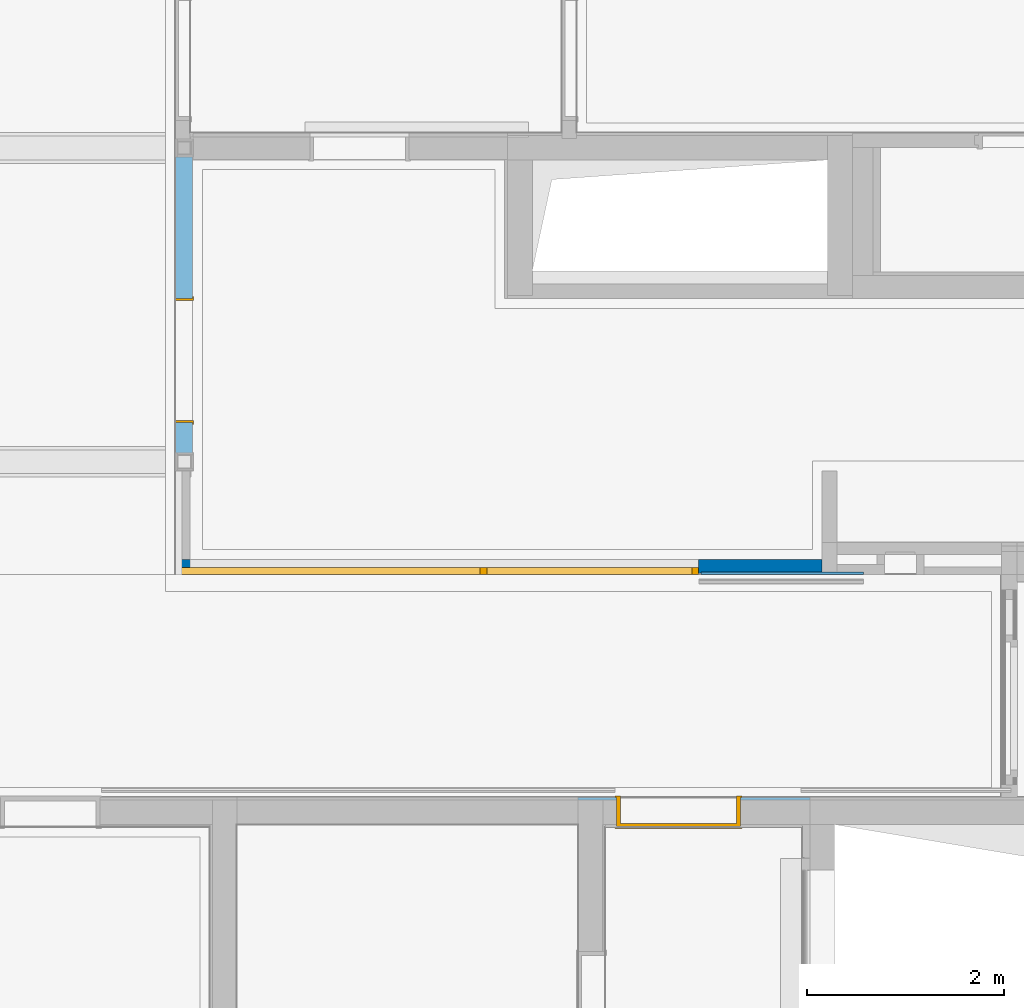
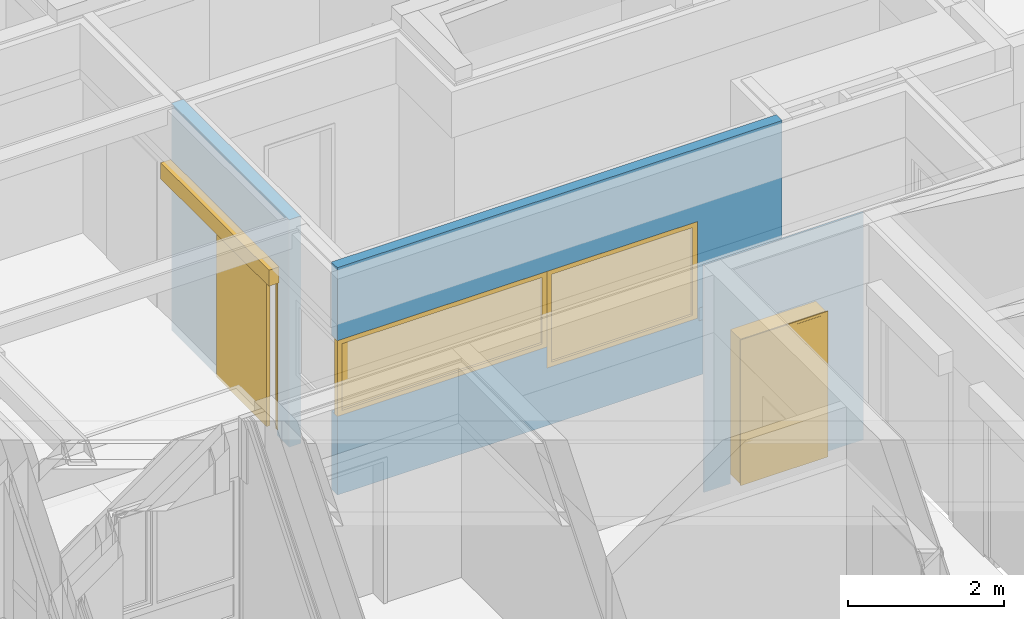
# One storey, part 82 of 222: 2 doors, 2 walls, 2 windows, 4 openings, plus 2 elements that do not belong to this part.
"""IFC4 building model written with IfcOpenShell, lengths in metres."""

import ifcopenshell
import ifcopenshell.guid

model = None  # the IFC model being written
_history = None  # IfcOwnerHistory: only IFC2X3 demands one
_inside = {}  # id of a spatial element -> (the spatial element, [elements in it])
_under = {}  # id of a project, library or spatial element -> (it, [spatial elements below it])
_declared = {}  # id of a project -> (the project, [libraries it declares])
_typed = {}  # id of a type object -> (the type object, [elements of that type])
_made_of = {}  # id of a material, layer set ... -> (it, [elements and type objects made of it])


def new_model(schema):
    """Start an empty IFC model of exactly this schema.

    Asked for "IFC4X3", IfcOpenShell would pick the latest addendum, in which some entities
    have other attributes; the version numbers below select the first issue.
    IFC2X3 requires an IfcOwnerHistory on every rooted entity: one is made here for all.
    """
    global model, _history
    if schema == "IFC4X3":
        model = ifcopenshell.file(schema_version=(4, 3, 0, 0))
    else:
        model = ifcopenshell.file(schema=schema)
    _inside.clear()
    _under.clear()
    _declared.clear()
    _typed.clear()
    _made_of.clear()
    _history = None
    if model.schema == "IFC2X3":
        org = make("IfcOrganization", Name="unknown")
        user = make(
            "IfcPersonAndOrganization",
            ThePerson=make("IfcPerson", FamilyName="unknown"),
            TheOrganization=org,
        )
        app = make(
            "IfcApplication",
            ApplicationDeveloper=org,
            Version="unknown",
            ApplicationFullName="unknown",
            ApplicationIdentifier="unknown",
        )
        _history = make(
            "IfcOwnerHistory",
            OwningUser=user,
            OwningApplication=app,
            ChangeAction="ADDED",
            CreationDate=0,
        )
    return model


def make(cls, **values):
    """One entity of the class cls with the attributes given. An attribute that is None is left unset."""
    return model.create_entity(
        cls, **{name: value for name, value in values.items() if value is not None}
    )


def entity(cls, *values):
    """Any entity or typed value of the class cls, its attributes in the order of the schema. None: left unset."""
    e = model.create_entity(cls)
    for i, value in enumerate(values):
        if value is not None:
            e[i] = value
    return e


def rooted(cls, **values):
    """An entity with a GlobalId (a new one), such as an element, a storey or a relation."""
    return make(cls, GlobalId=ifcopenshell.guid.new(), OwnerHistory=_history, **values)


def si_unit(unit_type, name, prefix=None):
    """IfcSIUnit, for example si_unit("LENGTHUNIT", "METRE", prefix="MILLI")."""
    return make("IfcSIUnit", UnitType=unit_type, Prefix=prefix, Name=name)


def converted_unit(unit_type, name, factor, base, dimensions=None, offset=None):
    """IfcConversionBasedUnit, such as the inch: factor (a typed value) times the base unit."""
    return make(
        "IfcConversionBasedUnit"
        if offset is None
        else "IfcConversionBasedUnitWithOffset",
        ConversionOffset=offset,
        Dimensions=None
        if dimensions is None
        else entity("IfcDimensionalExponents", *dimensions),
        UnitType=unit_type,
        Name=name,
        ConversionFactor=make(
            "IfcMeasureWithUnit", ValueComponent=factor, UnitComponent=base
        ),
    )


def derived_unit(unit_type, elements):
    """IfcDerivedUnit: a product of units, each with its exponent."""
    return make(
        "IfcDerivedUnit",
        Elements=[
            make("IfcDerivedUnitElement", Unit=unit, Exponent=power)
            for unit, power in elements
        ],
        UnitType=unit_type,
    )


def assignment(units):
    """IfcUnitAssignment: the units of a project."""
    return None if units is None else make("IfcUnitAssignment", Units=units)


def point(xyz):
    """IfcCartesianPoint."""
    return None if xyz is None else make("IfcCartesianPoint", Coordinates=xyz)


def direction(xyz):
    """IfcDirection."""
    return None if xyz is None else make("IfcDirection", DirectionRatios=xyz)


def frame(location, z_axis=None, x_axis=None):
    """IfcAxis2Placement3D, a coordinate frame: its origin and axes. An axis left out is left unset."""
    return make(
        "IfcAxis2Placement3D",
        Location=point(location),
        Axis=direction(z_axis),
        RefDirection=direction(x_axis),
    )


def frame_2d(location, x_axis=None):
    """IfcAxis2Placement2D, a coordinate frame in the plane: its origin and x axis."""
    return make(
        "IfcAxis2Placement2D", Location=point(location), RefDirection=direction(x_axis)
    )


def origin():
    """The frame at (0, 0, 0) with its axes left unset."""
    return frame((0.0, 0.0, 0.0))


def origin_with_axes():
    """The frame at (0, 0, 0) with the z axis (0, 0, 1) and the x axis (1, 0, 0) written out."""
    return frame((0.0, 0.0, 0.0), z_axis=(0.0, 0.0, 1.0), x_axis=(1.0, 0.0, 0.0))


def place(relative_to, where):
    """IfcLocalPlacement: puts the frame where relative to a parent placement (None: the world)."""
    return make(
        "IfcLocalPlacement", PlacementRelTo=relative_to, RelativePlacement=where
    )


def context(
    kind, dimensions, precision=None, world=None, true_north=None, identifier=None
):
    """IfcGeometricRepresentationContext, for example the 3D "Model" context."""
    return make(
        "IfcGeometricRepresentationContext",
        ContextIdentifier=identifier,
        ContextType=kind,
        CoordinateSpaceDimension=dimensions,
        Precision=precision,
        WorldCoordinateSystem=world,
        TrueNorth=true_north,
    )


def subcontext(parent, identifier, kind, view, scale=None):
    """IfcGeometricRepresentationSubContext, for example "Body" below "Model"."""
    return make(
        "IfcGeometricRepresentationSubContext",
        ContextIdentifier=identifier,
        ContextType=kind,
        ParentContext=parent,
        TargetScale=scale,
        TargetView=view,
    )


def project(units=None, contexts=None):
    """IfcProject with its units and contexts."""
    return rooted(
        "IfcProject",
        Name="project",
        RepresentationContexts=contexts,
        UnitsInContext=assignment(units),
    )


def spatial(cls, under=None, at=None, **own):
    """A site, building, storey or space (cls), placed at a placement, below another one or the project."""
    s = rooted(cls, ObjectPlacement=at, **own)
    if under is not None:
        _under.setdefault(under.id(), (under, []))[1].append(s)
    return s


def polyline(points):
    """IfcPolyline through the points."""
    return make("IfcPolyline", Points=[point(p) for p in points])


def profile(cls, at=None, kind="AREA", **sizes):
    """A parametric profile (cls). Its sizes go by their IFC names, for example OverallWidth=200.0."""
    return make(cls, ProfileType=kind, Position=at, **sizes)


def rectangle(**sizes):
    """IfcRectangleProfileDef."""
    return profile("IfcRectangleProfileDef", **sizes)


def outline(outer, holes=None, kind="AREA"):
    """IfcArbitraryClosedProfileDef: a profile drawn as a closed curve; with holes, ...WithVoids."""
    if holes is None:
        return make("IfcArbitraryClosedProfileDef", ProfileType=kind, OuterCurve=outer)
    return make(
        "IfcArbitraryProfileDefWithVoids",
        ProfileType=kind,
        OuterCurve=outer,
        InnerCurves=holes,
    )


def extrude(swept, where, along, depth):
    """IfcExtrudedAreaSolid: the profile swept, set in the frame where, extruded along a direction by depth."""
    return make(
        "IfcExtrudedAreaSolid",
        SweptArea=swept,
        Position=where,
        ExtrudedDirection=direction(along),
        Depth=depth,
    )


def faces_of(points, faces, orient=None, outer=None):
    """IfcFace entities. A face is a list of loops; a loop is a list of indices into points, from 0.

    orient and outer hold one flag for each loop. By default every Orientation is true, the
    first loop of a face is its IfcFaceOuterBound and the others are IfcFaceBound.
    """
    made = []
    for i, loops in enumerate(faces):
        bounds = []
        for j, loop in enumerate(loops):
            is_outer = j == 0 if outer is None else outer[i][j]
            bounds.append(
                make(
                    "IfcFaceOuterBound" if is_outer else "IfcFaceBound",
                    Bound=make("IfcPolyLoop", Polygon=[points[k] for k in loop]),
                    Orientation=True if orient is None else orient[i][j],
                )
            )
        made.append(make("IfcFace", Bounds=bounds))
    return made


def closed_shell(faces, orient=None, outer=None):
    """The faces of one IfcClosedShell. faceted_brep and surface_model build it on their shared points."""
    return ("IfcClosedShell", faces, orient, outer)


def open_shell(faces, orient=None, outer=None):
    """The faces of one IfcOpenShell. surface_model builds it on its shared points."""
    return ("IfcOpenShell", faces, orient, outer)


def faceted_brep(points, faces, orient=None, outer=None, voids=None):
    """IfcFacetedBrep: a solid bounded by flat faces; with voids (closed shells), ...WithVoids."""
    shared = [point(p) for p in points]
    hull = make("IfcClosedShell", CfsFaces=faces_of(shared, faces, orient, outer))
    if voids is None:
        return make("IfcFacetedBrep", Outer=hull)
    return make(
        "IfcFacetedBrepWithVoids",
        Outer=hull,
        Voids=[
            make(cls, CfsFaces=faces_of(shared, fs, o, b)) for cls, fs, o, b in voids
        ],
    )


def surface_model(cls, points, shells):
    """IfcFaceBasedSurfaceModel or IfcShellBasedSurfaceModel (cls): surfaces that need not close."""
    shared = [point(p) for p in points]
    made = [make(c, CfsFaces=faces_of(shared, fs, o, b)) for c, fs, o, b in shells]
    if cls == "IfcFaceBasedSurfaceModel":
        return make(cls, FbsmFaces=made)
    return make(cls, SbsmBoundary=made)


def shape(context_of_items, identifier, shape_type, items):
    """IfcShapeRepresentation: the items that make up one representation, for example the "Body"."""
    return make(
        "IfcShapeRepresentation",
        ContextOfItems=context_of_items,
        RepresentationIdentifier=identifier,
        RepresentationType=shape_type,
        Items=items,
    )


def source(mapping_origin, context_of_items, identifier, shape_type, items):
    """IfcRepresentationMap: a shape defined once, which mapped items show again and again."""
    return make(
        "IfcRepresentationMap",
        MappingOrigin=mapping_origin,
        MappedRepresentation=shape(context_of_items, identifier, shape_type, items),
    )


def transform(
    local_origin,
    x_axis=None,
    y_axis=None,
    z_axis=None,
    scale=None,
    scale2=None,
    scale3=None,
    uniform=True,
):
    """IfcCartesianTransformationOperator3D, or its non-uniform kind. x_axis, y_axis, z_axis: its Axis1, 2, 3."""
    if uniform:
        return make(
            "IfcCartesianTransformationOperator3D",
            Axis1=direction(x_axis),
            Axis2=direction(y_axis),
            LocalOrigin=point(local_origin),
            Scale=scale,
            Axis3=direction(z_axis),
        )
    return make(
        "IfcCartesianTransformationOperator3DnonUniform",
        Axis1=direction(x_axis),
        Axis2=direction(y_axis),
        LocalOrigin=point(local_origin),
        Scale=scale,
        Axis3=direction(z_axis),
        Scale2=scale2,
        Scale3=scale3,
    )


def mapped(mapping_source, mapping_target):
    """IfcMappedItem: shows the shape of a source again, moved by a transform."""
    return make(
        "IfcMappedItem", MappingSource=mapping_source, MappingTarget=mapping_target
    )


def material(Name=None, Category=None):
    """IfcMaterial."""
    return make("IfcMaterial", Name=Name, Category=Category)


def made_of(thing, what):
    """Note that an element or type object is made of a material, layer set ...; save() writes the relation."""
    if what is not None:
        _made_of.setdefault(what.id(), (what, []))[1].append(thing)
    return thing


def type_object(cls, material=None, **own):
    """A type object (cls), such as IfcWallType, which elements share."""
    return made_of(rooted(cls, **own), material)


def element(
    cls,
    number,
    at=None,
    inside=None,
    cuts=None,
    type_object=None,
    material=None,
    context=None,
    identifier="Body",
    shape_type=None,
    held_by="IfcProductDefinitionShape",
    body=None,
    shapes=None,
    **own,
):
    """One element of the class cls, such as IfcWall. Its Tag is "e" and its number.

    at: its placement. inside: the storey or other place that contains it. cuts: it is an
    opening in that element (IfcRelVoidsElement). A single representation is given by context,
    identifier, shape_type and body (its items); several are given by shapes. held_by: the class
    of the entity that holds the representations. save() writes the other relations.
    """
    e = rooted(cls, Tag="e%d" % number, ObjectPlacement=at, **own)
    if body is not None:
        shapes = [shape(context, identifier, shape_type, body)]
    if shapes is not None:
        e.Representation = make(held_by, Representations=shapes)
    if inside is not None:
        _inside.setdefault(inside.id(), (inside, []))[1].append(e)
    if cuts is not None:
        rooted(
            "IfcRelVoidsElement", RelatingBuildingElement=cuts, RelatedOpeningElement=e
        )
    if type_object is not None:
        _typed.setdefault(type_object.id(), (type_object, []))[1].append(e)
    return made_of(e, material)


def fill(opening, filler):
    """IfcRelFillsElement: the door or window that sits in an opening."""
    return rooted(
        "IfcRelFillsElement",
        RelatingOpeningElement=opening,
        RelatedBuildingElement=filler,
    )


def aggregate(whole, parts):
    """IfcRelAggregates: a whole, such as a stair, and the parts it consists of."""
    return rooted("IfcRelAggregates", RelatingObject=whole, RelatedObjects=parts)


def save(model, path):
    """Write the relations noted so far, then the file.

    IfcRelAggregates (storeys below a building ...), IfcRelContainedInSpatialStructure (elements
    in a storey), IfcRelDefinesByType, IfcRelAssociatesMaterial and IfcRelDeclares: one each for
    every whole, place, type object, material and project.
    """
    for whole, parts in _under.values():
        aggregate(whole, parts)
    for where, things in _inside.values():
        rooted(
            "IfcRelContainedInSpatialStructure",
            RelatedElements=things,
            RelatingStructure=where,
        )
    for kind, things in _typed.values():
        rooted("IfcRelDefinesByType", RelatedObjects=things, RelatingType=kind)
    for what, things in _made_of.values():
        rooted("IfcRelAssociatesMaterial", RelatedObjects=things, RelatingMaterial=what)
    for by, libraries in _declared.values():
        rooted("IfcRelDeclares", RelatingContext=by, RelatedDefinitions=libraries)
    model.write(path)


model = new_model("IFC4")

# Units and contexts
model_context = context("Model", 3, precision=1e-05, world=origin())
body_context = subcontext(model_context, "Body", "Model", "MODEL_VIEW")
ifc_project = project(units=[si_unit("LENGTHUNIT", "METRE"), si_unit("AREAUNIT", "SQUARE_METRE"), si_unit("VOLUMEUNIT", "CUBIC_METRE"), si_unit("MASSUNIT", "GRAM", prefix="KILO"), converted_unit("PLANEANGLEUNIT", "DEGREE", entity("IfcPlaneAngleMeasure", 0.0174532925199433), si_unit("PLANEANGLEUNIT", "RADIAN"), dimensions=[0, 0, 0, 0, 0, 0, 0]), derived_unit("THERMALTRANSMITTANCEUNIT", [(si_unit("POWERUNIT", "WATT"), 1), (si_unit("THERMODYNAMICTEMPERATUREUNIT", "KELVIN"), -1), (si_unit("LENGTHUNIT", "METRE"), -2)]), derived_unit("VOLUMETRICFLOWRATEUNIT", [(si_unit("LENGTHUNIT", "METRE"), 3), (converted_unit("TIMEUNIT", "hour", entity("IfcTimeMeasure", 3600.0), si_unit("TIMEUNIT", "SECOND"), dimensions=[0, 0, 1, 0, 0, 0, 0]), -1), (si_unit("LENGTHUNIT", "METRE"), -1)])], contexts=[model_context])

# Site, building, storey
site_placement = place(None, origin())
site = spatial("IfcSite", under=ifc_project, at=site_placement, Name="Psychiatrie Neubau Wunstorf", CompositionType="ELEMENT")
building_placement = place(site_placement, origin())
building = spatial("IfcBuilding", under=site, at=building_placement, Name="Neubau H2 Stationsgebäude", CompositionType="ELEMENT")
storey_placement = place(building_placement, frame((0.0, 0.0, 3.6)))
storey = spatial("IfcBuildingStorey", under=building, at=storey_placement, Name="H2 Ebene +1", CompositionType="ELEMENT", Elevation=3.6)

# Wall
wall_1_placement = place(storey_placement, frame((45.9126370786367, 2.81749969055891, 0.85)))
element("IfcWall", 1, at=wall_1_placement, inside=storey, Name="WV 1.1", context=body_context, shape_type="Brep", body=[
    faceted_brep([(0.0, 0.025, 0.0), (0.0, 0.0, 0.0), (1.65, 0.0, 0.0), (1.65, 0.025, 0.0), (0.0, 0.0, 0.2), (0.0, 0.025, 0.2), (1.65, 0.025, 0.2), (1.65, 0.0, 0.2)], [[[0, 1, 2, 3]], [[4, 5, 6, 7]], [[1, 0, 5, 4]], [[2, 1, 4, 7]], [[3, 2, 7, 6]], [[0, 3, 6, 5]]], orient=[[False], [False], [False], [False], [False], [False]]),
])

# Wall, opening, door
ifc_material_1 = material(Name="WI-LB")
wall_2_placement = place(storey_placement, frame((40.5749975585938, 7.05649969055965, 0.0), z_axis=(0.0, 0.0, 1.0), x_axis=(0.0, -1.0, 0.0)))
wall_2 = element("IfcWall", 2, at=wall_2_placement, inside=storey, material=ifc_material_1, context=body_context, shape_type="SweptSolid", body=[
    extrude(outline(polyline([(-3.00651163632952, 0.0), (-8.88637829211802e-06, 0.0), (0.0, 0.175), (-3.00651163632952, 0.175), (-3.00651163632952, 0.0)])), frame((3.00651163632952, 0.0, 0.0), z_axis=(0.0, 0.0, 1.0), x_axis=(1.0, 0.0, 0.0)), (0.0, 0.0, 1.0), 3.55),
])
opening_1_placement = place(wall_2_placement, frame((1.43899947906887, 0.0, 0.0), z_axis=(0.0, 1.0, 0.0), x_axis=(0.0, 0.0, 1.0)))
opening_1 = element("IfcOpeningElement", 3, at=opening_1_placement, cuts=wall_2, Name="Türöffnung", ObjectType="Opening", context=body_context, shape_type="SweptSolid", body=[
    extrude(outline(polyline([(2.41, 1.26), (2.41, 0.0), (0.0, 0.0), (0.0, 1.26), (2.41, 1.26)])), origin_with_axes(), (0.0, 0.0, 1.0), 0.175),
])
ifc_material_2 = material(Name="TI-1F-UZ-ZK")
door_type_1 = type_object("IfcDoorType", Name="SMT", OperationType="SLIDING_TO_RIGHT", ParameterTakesPrecedence=False, PredefinedType="DOOR")
shared_shape_1 = source(origin_with_axes(), body_context, "Body", "Brep", [
    faceted_brep([(-0.0774999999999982, 0.0574999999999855, 0.0), (-0.0274999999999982, 0.0574999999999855, 0.0), (-0.0274999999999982, 0.157499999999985, 0.0), (-0.0774999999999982, 0.157499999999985, 0.0), (-0.0774999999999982, 0.157499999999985, 3.55), (-0.0274999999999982, 0.157499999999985, 3.55), (-0.0274999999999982, 0.0574999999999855, 3.55), (-0.0774999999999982, 0.0574999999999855, 3.55)], [[[0, 1, 2, 3]], [[4, 5, 6, 7]], [[3, 4, 7, 0]], [[2, 5, 4, 3]], [[1, 6, 5, 2]], [[0, 7, 6, 1]]], orient=[[False], [False], [False], [False], [False], [False]]),
    faceted_brep([(-1.4075, 0.0574999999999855, 0.0), (-1.3575, 0.0574999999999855, 0.0), (-1.3575, 0.157499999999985, 0.0), (-1.4075, 0.157499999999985, 0.0), (-1.4075, 0.157499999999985, 3.55), (-1.3575, 0.157499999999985, 3.55), (-1.3575, 0.0574999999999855, 3.55), (-1.4075, 0.0574999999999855, 3.55)], [[[0, 1, 2, 3]], [[4, 5, 6, 7]], [[3, 4, 7, 0]], [[2, 5, 4, 3]], [[1, 6, 5, 2]], [[0, 7, 6, 1]]], orient=[[False], [False], [False], [False], [False], [False]]),
    faceted_brep([(1.2875, 0.0574999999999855, 0.0), (1.3375, 0.0574999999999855, 0.0), (1.3375, 0.157499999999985, 0.0), (1.2875, 0.157499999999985, 0.0), (1.2875, 0.157499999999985, 3.55), (1.3375, 0.157499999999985, 3.55), (1.3375, 0.0574999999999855, 3.55), (1.2875, 0.0574999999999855, 3.55)], [[[0, 1, 2, 3]], [[4, 5, 6, 7]], [[3, 4, 7, 0]], [[2, 5, 4, 3]], [[1, 6, 5, 2]], [[0, 7, 6, 1]]], orient=[[False], [False], [False], [False], [False], [False]]),
    faceted_brep([(-1.3575, 0.0574999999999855, 2.4375), (1.2875, 0.0574999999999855, 2.4375), (1.2875, 0.157499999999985, 2.4375), (-1.3575, 0.157499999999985, 2.4375), (-1.3575, 0.157499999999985, 2.4875), (1.2875, 0.157499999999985, 2.4875), (1.2875, 0.0574999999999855, 2.4875), (-1.3575, 0.0574999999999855, 2.4875)], [[[0, 1, 2, 3]], [[4, 5, 6, 7]], [[3, 4, 7, 0]], [[2, 5, 4, 3]], [[1, 6, 5, 2]], [[0, 7, 6, 1]]], orient=[[False], [False], [False], [False], [False], [False]]),
])
shared_shape_2 = source(origin_with_axes(), body_context, "Body", "Brep", [
    faceted_brep([(1.31, -0.130000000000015, 2.41), (1.31, 0.0199999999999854, 2.41), (-1.46, 0.0199999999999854, 2.41), (-1.46, -0.130000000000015, 2.41), (1.31, 0.0199999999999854, 2.66), (1.31, -0.130000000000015, 2.66), (-1.46, -0.130000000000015, 2.66), (-1.46, 0.0199999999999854, 2.66)], [[[0, 1, 2, 3]], [[4, 5, 6, 7]], [[1, 0, 5, 4]], [[2, 1, 4, 7]], [[3, 2, 7, 6]], [[0, 3, 6, 5]]], orient=[[False], [False], [False], [False], [False], [False]]),
])
shared_shape_3 = source(origin_with_axes(), body_context, "Body", "Brep", [
    faceted_brep([(1.26, 0.204999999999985, 2.41), (1.24, 0.204999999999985, 2.41), (1.24, 0.204999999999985, 0.1), (1.26, 0.204999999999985, 0.1), (1.26, 0.00999999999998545, 0.1), (1.24, 0.00999999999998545, 0.1), (1.24, 0.00999999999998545, 2.41), (1.26, 0.00999999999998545, 2.41)], [[[0, 1, 2, 3]], [[4, 5, 6, 7]], [[3, 4, 7, 0]], [[2, 5, 4, 3]], [[1, 6, 5, 2]], [[0, 7, 6, 1]]], orient=[[False], [False], [False], [False], [False], [False]]),
    faceted_brep([(1.26, 0.204999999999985, 2.43), (1.26, 0.204999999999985, 0.1), (1.28, 0.204999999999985, 0.1), (1.28, 0.204999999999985, 2.43), (1.26, 0.194999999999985, 0.1), (1.26, 0.194999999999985, 2.43), (1.28, 0.194999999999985, 2.43), (1.28, 0.194999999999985, 0.1)], [[[0, 1, 2, 3]], [[4, 5, 6, 7]], [[1, 0, 5, 4]], [[2, 1, 4, 7]], [[3, 2, 7, 6]], [[0, 3, 6, 5]]], orient=[[False], [False], [False], [False], [False], [False]]),
    faceted_brep([(1.26, 0.0199999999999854, 2.43), (1.26, 0.0199999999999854, 0.1), (1.28, 0.0199999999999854, 0.1), (1.28, 0.0199999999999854, 2.43), (1.26, 0.00999999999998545, 0.1), (1.26, 0.00999999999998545, 2.43), (1.28, 0.00999999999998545, 2.43), (1.28, 0.00999999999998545, 0.1)], [[[0, 1, 2, 3]], [[4, 5, 6, 7]], [[1, 0, 5, 4]], [[2, 1, 4, 7]], [[3, 2, 7, 6]], [[0, 3, 6, 5]]], orient=[[False], [False], [False], [False], [False], [False]]),
    faceted_brep([(0.0200000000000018, 0.204999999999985, 2.41), (0.0, 0.204999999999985, 2.41), (0.0, 0.204999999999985, 0.1), (0.0200000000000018, 0.204999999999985, 0.1), (0.0200000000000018, 0.00999999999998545, 0.1), (0.0, 0.00999999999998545, 0.1), (0.0, 0.00999999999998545, 2.41), (0.0200000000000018, 0.00999999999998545, 2.41)], [[[0, 1, 2, 3]], [[4, 5, 6, 7]], [[3, 4, 7, 0]], [[2, 5, 4, 3]], [[1, 6, 5, 2]], [[0, 7, 6, 1]]], orient=[[False], [False], [False], [False], [False], [False]]),
    faceted_brep([(0.0, 0.204999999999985, 2.43), (-0.0199999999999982, 0.204999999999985, 2.43), (-0.0199999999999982, 0.204999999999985, 0.1), (0.0, 0.204999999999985, 0.1), (0.0, 0.194999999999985, 0.1), (-0.0199999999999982, 0.194999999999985, 0.1), (-0.0199999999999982, 0.194999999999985, 2.43), (0.0, 0.194999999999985, 2.43)], [[[0, 1, 2, 3]], [[4, 5, 6, 7]], [[3, 4, 7, 0]], [[2, 5, 4, 3]], [[1, 6, 5, 2]], [[0, 7, 6, 1]]], orient=[[False], [False], [False], [False], [False], [False]]),
    faceted_brep([(0.0, 0.0199999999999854, 2.43), (-0.0199999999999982, 0.0199999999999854, 2.43), (-0.0199999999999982, 0.0199999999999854, 0.1), (0.0, 0.0199999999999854, 0.1), (0.0, 0.00999999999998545, 0.1), (-0.0199999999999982, 0.00999999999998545, 0.1), (-0.0199999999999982, 0.00999999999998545, 2.43), (0.0, 0.00999999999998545, 2.43)], [[[0, 1, 2, 3]], [[4, 5, 6, 7]], [[3, 4, 7, 0]], [[2, 5, 4, 3]], [[1, 6, 5, 2]], [[0, 7, 6, 1]]], orient=[[False], [False], [False], [False], [False], [False]]),
    faceted_brep([(1.24, 0.204999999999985, 2.41), (0.0200000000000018, 0.204999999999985, 2.41), (0.0200000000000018, 0.204999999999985, 2.385), (1.24, 0.204999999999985, 2.385), (1.24, 0.00999999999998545, 2.385), (0.0200000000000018, 0.00999999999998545, 2.385), (0.0200000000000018, 0.00999999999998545, 2.41), (1.24, 0.00999999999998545, 2.41)], [[[0, 1, 2, 3]], [[4, 5, 6, 7]], [[3, 4, 7, 0]], [[2, 5, 4, 3]], [[1, 6, 5, 2]], [[0, 7, 6, 1]]], orient=[[False], [False], [False], [False], [False], [False]]),
    faceted_brep([(1.26, 0.204999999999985, 2.43), (0.0, 0.204999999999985, 2.43), (0.0, 0.204999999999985, 2.41), (1.26, 0.204999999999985, 2.41), (1.26, 0.194999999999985, 2.41), (0.0, 0.194999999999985, 2.41), (0.0, 0.194999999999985, 2.43), (1.26, 0.194999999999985, 2.43)], [[[0, 1, 2, 3]], [[4, 5, 6, 7]], [[3, 4, 7, 0]], [[2, 5, 4, 3]], [[1, 6, 5, 2]], [[0, 7, 6, 1]]], orient=[[False], [False], [False], [False], [False], [False]]),
    faceted_brep([(1.26, 0.0199999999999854, 2.43), (0.0, 0.0199999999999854, 2.43), (0.0, 0.0199999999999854, 2.41), (1.26, 0.0199999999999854, 2.41), (1.26, 0.00999999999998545, 2.41), (0.0, 0.00999999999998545, 2.41), (0.0, 0.00999999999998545, 2.43), (1.26, 0.00999999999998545, 2.43)], [[[0, 1, 2, 3]], [[4, 5, 6, 7]], [[3, 4, 7, 0]], [[2, 5, 4, 3]], [[1, 6, 5, 2]], [[0, 7, 6, 1]]], orient=[[False], [False], [False], [False], [False], [False]]),
    faceted_brep([(1.148, -0.0200000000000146, 2.465), (-0.131999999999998, -0.0200000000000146, 2.465), (-0.131999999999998, -0.0200000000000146, 0.1), (1.148, -0.0200000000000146, 0.1), (1.148, -0.0700000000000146, 0.1), (-0.131999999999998, -0.0700000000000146, 0.1), (-0.131999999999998, -0.0700000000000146, 2.465), (1.148, -0.0700000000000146, 2.465)], [[[0, 1, 2, 3]], [[4, 5, 6, 7]], [[3, 4, 7, 0]], [[2, 5, 4, 3]], [[1, 6, 5, 2]], [[0, 7, 6, 1]]], orient=[[False], [False], [False], [False], [False], [False]]),
])
door_1_placement = place(opening_1_placement, frame((0.0, 0.0, -0.02), z_axis=(1.0, 0.0, 0.0), x_axis=(0.0, 1.0, 0.0)))
door_1 = element("IfcDoor", 4, at=door_1_placement, inside=storey, type_object=door_type_1, material=ifc_material_2, Name="SMT", OverallHeight=2.41, OverallWidth=1.26, context=body_context, shape_type="MappedRepresentation", body=[
    mapped(shared_shape_1, transform((0.0, 0.0, 0.0), x_axis=(1.0, 0.0, 0.0), y_axis=(0.0, 1.0, 0.0), z_axis=(0.0, 0.0, 1.0), scale=1.0)),
    mapped(shared_shape_2, transform((0.0, 0.0, 0.0), x_axis=(1.0, 0.0, 0.0), y_axis=(0.0, 1.0, 0.0), z_axis=(0.0, 0.0, 1.0), scale=1.0)),
    mapped(shared_shape_3, transform((0.0, 0.0, 0.0), x_axis=(1.0, 0.0, 0.0), y_axis=(0.0, 1.0, 0.0), z_axis=(0.0, 0.0, 1.0), scale=1.0)),
])
fill(opening_1, door_1)

# Wall, openings, windows
ifc_material_3 = material(Name="WI-LB")
wall_3_placement = place(storey_placement, frame((40.5749975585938, 2.81734917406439, 0.0)))
wall_3 = element("IfcWall", 5, at=wall_3_placement, inside=storey, material=ifc_material_3, context=body_context, shape_type="Brep", body=[
    faceted_brep([(0.0, 0.000150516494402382, 2.41), (0.0, 0.000150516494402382, 1.23), (0.15, 0.000150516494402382, 1.23), (0.15, 0.000150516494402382, 2.41), (0.15, 0.150000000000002, 2.41), (0.0, 0.150000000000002, 2.41), (0.0, 0.150000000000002, 1.23), (0.15, 0.150000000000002, 1.23), (0.0, 0.150000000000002, 0.0), (6.56791439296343, 0.15, 0.0), (6.56791439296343, 0.15, 3.55), (0.0, 0.150000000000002, 3.55), (6.56791439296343, 0.0, 0.0), (6.56791439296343, 0.0, 3.55), (0.0, 0.0, 0.0), (0.0, 0.0, 3.55)], [[[0, 1, 2, 3]], [[3, 4, 5, 0]], [[1, 6, 7, 2]], [[3, 2, 7, 4]], [[4, 7, 6, 8, 9, 10, 11, 5]], [[9, 12, 13, 10]], [[12, 14, 15, 13]], [[5, 11, 15, 14, 8, 6, 1, 0]], [[15, 11, 10, 13]], [[8, 14, 12, 9]]], orient=[[False], [False], [False], [False], [False], [False], [False], [False], [False], [False]]),
])
opening_2_placement = place(wall_3_placement, frame((3.09500307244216, 0.150000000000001, 1.23), z_axis=(0.0, -1.0, 0.0), x_axis=(0.0, 0.0, 1.0)))
opening_2 = element("IfcOpeningElement", 6, at=opening_2_placement, cuts=wall_3, Name="Fensteröffnung", ObjectType="Opening", context=body_context, shape_type="SweptSolid", body=[
    extrude(outline(polyline([(1.18, 3.09500307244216), (1.18, 0.0), (0.0, 0.0), (0.0, 3.09500307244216), (1.18, 3.09500307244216)])), origin_with_axes(), (0.0, 0.0, 1.0), 0.15),
])
opening_3_placement = place(wall_3_placement, frame((5.31500307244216, 0.15, 0.9), z_axis=(0.0, -1.0, 0.0), x_axis=(0.0, 0.0, 1.0)))
opening_3 = element("IfcOpeningElement", 7, at=opening_3_placement, cuts=wall_3, Name="Fensteröffnung", ObjectType="Opening", context=body_context, shape_type="SweptSolid", body=[
    extrude(outline(polyline([(1.51, 2.22), (1.51, 0.0), (0.0, 0.0), (0.0, 2.22), (1.51, 2.22)])), origin_with_axes(), (0.0, 0.0, 1.0), 0.15),
])
shared_shape_4 = source(origin_with_axes(), body_context, "Body", "SurfaceModel", [
    surface_model("IfcShellBasedSurfaceModel", [(0.0, 0.0, 1.18), (0.07, 0.0, 1.18), (0.07, 0.0, 0.0), (0.0, 0.0, 0.0), (0.0, 0.0700000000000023, 0.0), (0.07, 0.0700000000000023, 0.0), (0.07, 0.0700000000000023, 1.18), (0.0, 0.0700000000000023, 1.18)], [closed_shell([[[0, 1, 2, 3]], [[4, 5, 6, 7]], [[3, 4, 7, 0]], [[2, 5, 4, 3]], [[1, 6, 5, 2]], [[0, 7, 6, 1]]], orient=[[False], [False], [False], [False], [False], [False]])]),
    surface_model("IfcShellBasedSurfaceModel", [(3.02500307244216, 0.0, 1.18), (3.09500307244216, 0.0, 1.18), (3.09500307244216, 0.0, 0.0), (3.02500307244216, 0.0, 0.0), (3.02500307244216, 0.0700000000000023, 0.0), (3.09500307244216, 0.0700000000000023, 0.0), (3.09500307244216, 0.0700000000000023, 1.18), (3.02500307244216, 0.0700000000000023, 1.18)], [closed_shell([[[0, 1, 2, 3]], [[4, 5, 6, 7]], [[3, 4, 7, 0]], [[2, 5, 4, 3]], [[1, 6, 5, 2]], [[0, 7, 6, 1]]], orient=[[False], [False], [False], [False], [False], [False]])]),
    surface_model("IfcShellBasedSurfaceModel", [(0.07, 0.0, 0.07), (3.02500307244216, 0.0, 0.07), (3.02500307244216, 0.0, 0.0), (0.07, 0.0, 0.0), (0.07, 0.0700000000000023, 0.0), (3.02500307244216, 0.0700000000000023, 0.0), (3.02500307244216, 0.0700000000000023, 0.07), (0.07, 0.0700000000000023, 0.07)], [closed_shell([[[0, 1, 2, 3]], [[4, 5, 6, 7]], [[3, 4, 7, 0]], [[2, 5, 4, 3]], [[1, 6, 5, 2]], [[0, 7, 6, 1]]], orient=[[False], [False], [False], [False], [False], [False]])]),
    surface_model("IfcShellBasedSurfaceModel", [(0.07, 0.0, 1.18), (3.02500307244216, 0.0, 1.18), (3.02500307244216, 0.0, 1.11), (0.07, 0.0, 1.11), (0.07, 0.0700000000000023, 1.11), (3.02500307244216, 0.0700000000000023, 1.11), (3.02500307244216, 0.0700000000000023, 1.18), (0.07, 0.0700000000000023, 1.18)], [closed_shell([[[0, 1, 2, 3]], [[4, 5, 6, 7]], [[3, 4, 7, 0]], [[2, 5, 4, 3]], [[1, 6, 5, 2]], [[0, 7, 6, 1]]], orient=[[False], [False], [False], [False], [False], [False]])]),
    surface_model("IfcShellBasedSurfaceModel", [(0.07, 0.0350000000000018, 0.07), (0.07, 0.0350000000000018, 1.11), (3.02500307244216, 0.0350000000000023, 1.11), (3.02500307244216, 0.0350000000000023, 0.07)], [open_shell([[[0, 1, 2, 3]]], orient=[[False]])]),
])
window_1_placement = place(opening_2_placement, frame((0.0, 0.0, 0.08), z_axis=(1.0, 0.0, 0.0), x_axis=(0.0, 1.0, -2.93859062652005e-16)))
window_1 = element("IfcWindow", 8, at=window_1_placement, inside=storey, Name="Fenster", OverallHeight=1.18, OverallWidth=3.095, PartitioningType="USERDEFINED", PredefinedType="WINDOW", context=body_context, shape_type="MappedRepresentation", body=[
    mapped(shared_shape_4, transform((0.0, 0.0, 0.0), x_axis=(1.0, 0.0, 0.0), y_axis=(0.0, 1.0, 0.0), z_axis=(0.0, 0.0, 1.0), scale=1.0)),
])
fill(opening_2, window_1)
shared_shape_5 = source(origin_with_axes(), body_context, "Body", "SurfaceModel", [
    surface_model("IfcShellBasedSurfaceModel", [(0.0, 0.0, 1.51), (0.07, 0.0, 1.51), (0.07, 0.0, 0.0), (0.0, 0.0, 0.0), (0.0, 0.0700000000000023, 0.0), (0.07, 0.0700000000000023, 0.0), (0.07, 0.0700000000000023, 1.51), (0.0, 0.0700000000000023, 1.51)], [closed_shell([[[0, 1, 2, 3]], [[4, 5, 6, 7]], [[3, 4, 7, 0]], [[2, 5, 4, 3]], [[1, 6, 5, 2]], [[0, 7, 6, 1]]], orient=[[False], [False], [False], [False], [False], [False]])]),
    surface_model("IfcShellBasedSurfaceModel", [(2.15, 0.0, 1.51), (2.22, 0.0, 1.51), (2.22, 0.0, 0.0), (2.15, 0.0, 0.0), (2.15, 0.0700000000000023, 0.0), (2.22, 0.0700000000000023, 0.0), (2.22, 0.0700000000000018, 1.51), (2.15, 0.0700000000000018, 1.51)], [closed_shell([[[0, 1, 2, 3]], [[4, 5, 6, 7]], [[3, 4, 7, 0]], [[2, 5, 4, 3]], [[1, 6, 5, 2]], [[0, 7, 6, 1]]], orient=[[False], [False], [False], [False], [False], [False]])]),
    surface_model("IfcShellBasedSurfaceModel", [(0.07, 0.0, 0.07), (2.15, 0.0, 0.07), (2.15, 0.0, 0.0), (0.07, 0.0, 0.0), (0.07, 0.0700000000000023, 0.0), (2.15, 0.0700000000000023, 0.0), (2.15, 0.0700000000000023, 0.07), (0.07, 0.0700000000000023, 0.07)], [closed_shell([[[0, 1, 2, 3]], [[4, 5, 6, 7]], [[3, 4, 7, 0]], [[2, 5, 4, 3]], [[1, 6, 5, 2]], [[0, 7, 6, 1]]], orient=[[False], [False], [False], [False], [False], [False]])]),
    surface_model("IfcShellBasedSurfaceModel", [(0.07, 0.0, 1.51), (2.15, 0.0, 1.51), (2.15, 0.0, 1.44), (0.07, 0.0, 1.44), (0.07, 0.0700000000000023, 1.44), (2.15, 0.0700000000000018, 1.44), (2.15, 0.0700000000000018, 1.51), (0.07, 0.0700000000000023, 1.51)], [closed_shell([[[0, 1, 2, 3]], [[4, 5, 6, 7]], [[3, 4, 7, 0]], [[2, 5, 4, 3]], [[1, 6, 5, 2]], [[0, 7, 6, 1]]], orient=[[False], [False], [False], [False], [False], [False]])]),
    surface_model("IfcShellBasedSurfaceModel", [(0.07, 0.0350000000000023, 0.07), (0.07, 0.0350000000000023, 1.44), (2.15, 0.0350000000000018, 1.44), (2.15, 0.0350000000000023, 0.07)], [open_shell([[[0, 1, 2, 3]]], orient=[[False]])]),
])
window_2_placement = place(opening_3_placement, frame((0.0, 0.0, 0.08), z_axis=(1.0, 0.0, 0.0), x_axis=(0.0, 1.0, -2.04841149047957e-16)))
window_2 = element("IfcWindow", 9, at=window_2_placement, inside=storey, Name="Fenster", OverallHeight=1.51, OverallWidth=2.22, PartitioningType="USERDEFINED", PredefinedType="WINDOW", context=body_context, shape_type="MappedRepresentation", body=[
    mapped(shared_shape_5, transform((0.0, 0.0, 0.0), x_axis=(1.0, 0.0, 0.0), y_axis=(0.0, 1.0, 0.0), z_axis=(0.0, 0.0, 1.0), scale=1.0)),
])
fill(opening_3, window_2)

# Wall, opening, door
ifc_material_4 = material(Name="WI-LB")
wall_4_placement = place(storey_placement, frame((47.0200048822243, 0.549, 0.0), z_axis=(0.0, 0.0, 1.0), x_axis=(-1.0, 9.65903464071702e-17, 0.0)))
wall_4 = element("IfcWall", 10, at=wall_4_placement, inside=storey, material=ifc_material_4, context=body_context, shape_type="SweptSolid", body=[
    extrude(rectangle(XDim=2.3540000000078, YDim=0.024, at=frame_2d((1.1770000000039, 0.012), x_axis=(1.0, 0.0))), origin_with_axes(), (0.0, 0.0, 1.0), 3.55),
])
opening_4_placement = place(wall_4_placement, frame((1.96500000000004, 0.024, 0.0), z_axis=(0.0, -1.0, 0.0), x_axis=(0.0, 0.0, 1.0)))
opening_4 = element("IfcOpeningElement", 11, at=opening_4_placement, cuts=wall_4, Name="Türöffnung", ObjectType="Opening", context=body_context, shape_type="SweptSolid", body=[
    extrude(outline(polyline([(2.41, 1.26), (2.41, 0.0), (0.0, 0.0), (0.0, 1.26), (2.41, 1.26)])), origin_with_axes(), (0.0, 0.0, 1.0), 0.024),
])
ifc_material_5 = material(Name="TI-1F-UZ-M-ZK")
door_type_2 = type_object("IfcDoorType", Name="SMT", OperationType="SINGLE_SWING_RIGHT", ParameterTakesPrecedence=False, PredefinedType="DOOR")
shared_shape_6 = source(origin_with_axes(), body_context, "Body", "Brep", [
    faceted_brep([(1.26, -0.0150000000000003, 2.41), (1.26, -0.015, 0.15), (1.22, -0.015, 0.15), (1.22, -0.0150000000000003, 2.41), (1.26, 0.314, 0.15), (1.26, 0.314, 2.41), (1.22, 0.314, 2.41), (1.22, 0.314, 0.15)], [[[0, 1, 2, 3]], [[4, 5, 6, 7]], [[1, 0, 5, 4]], [[2, 1, 4, 7]], [[3, 2, 7, 6]], [[0, 3, 6, 5]]], orient=[[False], [False], [False], [False], [False], [False]]),
    faceted_brep([(1.26, -0.0150000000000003, 2.425), (1.275, -0.0150000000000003, 2.425), (1.275, -0.015, 0.15), (1.26, -0.015, 0.15), (1.26, 0.0, 0.15), (1.275, 0.0, 0.15), (1.275, 0.0, 2.425), (1.26, 0.0, 2.425)], [[[0, 1, 2, 3]], [[4, 5, 6, 7]], [[3, 4, 7, 0]], [[2, 5, 4, 3]], [[1, 6, 5, 2]], [[0, 7, 6, 1]]], orient=[[False], [False], [False], [False], [False], [False]]),
    faceted_brep([(1.26, 0.299, 2.425), (1.275, 0.299, 2.425), (1.275, 0.299, 0.15), (1.26, 0.299, 0.15), (1.26, 0.314, 0.15), (1.275, 0.314, 0.15), (1.275, 0.314, 2.425), (1.26, 0.314, 2.425)], [[[0, 1, 2, 3]], [[4, 5, 6, 7]], [[3, 4, 7, 0]], [[2, 5, 4, 3]], [[1, 6, 5, 2]], [[0, 7, 6, 1]]], orient=[[False], [False], [False], [False], [False], [False]]),
    faceted_brep([(0.04, -0.0150000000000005, 2.41), (0.04, -0.0150000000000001, 0.15), (0.0, -0.0150000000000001, 0.15), (0.0, -0.0150000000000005, 2.41), (0.04, 0.314, 0.15), (0.04, 0.314, 2.41), (0.0, 0.314, 2.41), (0.0, 0.314, 0.15)], [[[0, 1, 2, 3]], [[4, 5, 6, 7]], [[1, 0, 5, 4]], [[2, 1, 4, 7]], [[3, 2, 7, 6]], [[0, 3, 6, 5]]], orient=[[False], [False], [False], [False], [False], [False]]),
    faceted_brep([(0.0, -0.0150000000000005, 2.425), (0.0, -0.0150000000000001, 0.15), (-0.015, -0.0150000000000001, 0.15), (-0.015, -0.0150000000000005, 2.425), (0.0, 0.0, 0.15), (0.0, 0.0, 2.425), (-0.015, 0.0, 2.425), (-0.015, 0.0, 0.15)], [[[0, 1, 2, 3]], [[4, 5, 6, 7]], [[1, 0, 5, 4]], [[2, 1, 4, 7]], [[3, 2, 7, 6]], [[0, 3, 6, 5]]], orient=[[False], [False], [False], [False], [False], [False]]),
    faceted_brep([(0.0, 0.299, 2.425), (0.0, 0.299, 0.15), (-0.015, 0.299, 0.15), (-0.015, 0.299, 2.425), (0.0, 0.314, 0.15), (0.0, 0.314, 2.425), (-0.015, 0.314, 2.425), (-0.015, 0.314, 0.15)], [[[0, 1, 2, 3]], [[4, 5, 6, 7]], [[1, 0, 5, 4]], [[2, 1, 4, 7]], [[3, 2, 7, 6]], [[0, 3, 6, 5]]], orient=[[False], [False], [False], [False], [False], [False]]),
    faceted_brep([(1.22, -0.0150000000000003, 2.41), (1.22, -0.0150000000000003, 2.37), (0.04, -0.0150000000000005, 2.37), (0.04, -0.0150000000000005, 2.41), (1.22, 0.314, 2.37), (1.22, 0.314, 2.41), (0.04, 0.314, 2.41), (0.04, 0.314, 2.37)], [[[0, 1, 2, 3]], [[4, 5, 6, 7]], [[1, 0, 5, 4]], [[2, 1, 4, 7]], [[3, 2, 7, 6]], [[0, 3, 6, 5]]], orient=[[False], [False], [False], [False], [False], [False]]),
    faceted_brep([(1.26, -0.0150000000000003, 2.425), (1.26, -0.0150000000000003, 2.41), (0.0, -0.0150000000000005, 2.41), (0.0, -0.0150000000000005, 2.425), (1.26, 0.0, 2.41), (1.26, 0.0, 2.425), (0.0, 0.0, 2.425), (0.0, 0.0, 2.41)], [[[0, 1, 2, 3]], [[4, 5, 6, 7]], [[1, 0, 5, 4]], [[2, 1, 4, 7]], [[3, 2, 7, 6]], [[0, 3, 6, 5]]], orient=[[False], [False], [False], [False], [False], [False]]),
    faceted_brep([(1.26, 0.299, 2.425), (1.26, 0.299, 2.41), (0.0, 0.299, 2.41), (0.0, 0.299, 2.425), (1.26, 0.314, 2.41), (1.26, 0.314, 2.425), (0.0, 0.314, 2.425), (0.0, 0.314, 2.41)], [[[0, 1, 2, 3]], [[4, 5, 6, 7]], [[1, 0, 5, 4]], [[2, 1, 4, 7]], [[3, 2, 7, 6]], [[0, 3, 6, 5]]], orient=[[False], [False], [False], [False], [False], [False]]),
    faceted_brep([(1.235, 0.265, 2.385), (1.235, 0.265, 0.15), (0.025, 0.265, 0.15), (0.025, 0.265, 2.385), (1.235, 0.315, 0.15), (1.235, 0.315, 2.385), (0.025, 0.315, 2.385), (0.025, 0.315, 0.15)], [[[0, 1, 2, 3]], [[4, 5, 6, 7]], [[1, 0, 5, 4]], [[2, 1, 4, 7]], [[3, 2, 7, 6]], [[0, 3, 6, 5]]], orient=[[False], [False], [False], [False], [False], [False]]),
])
door_2_placement = place(opening_4_placement, frame((0.0, 1.26, 0.024), z_axis=(1.0, 0.0, 0.0), x_axis=(0.0, -1.0, 1.61942148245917e-17)))
door_2 = element("IfcDoor", 12, at=door_2_placement, inside=storey, type_object=door_type_2, material=ifc_material_5, Name="SMT", OverallHeight=2.41, OverallWidth=1.26, context=body_context, shape_type="MappedRepresentation", body=[
    mapped(shared_shape_6, transform((0.0, 0.0, 0.0), x_axis=(1.0, 0.0, 0.0), y_axis=(0.0, 1.0, 0.0), z_axis=(0.0, 0.0, 1.0), scale=1.0)),
])
fill(opening_4, door_2)

save(model, "model.ifc")
